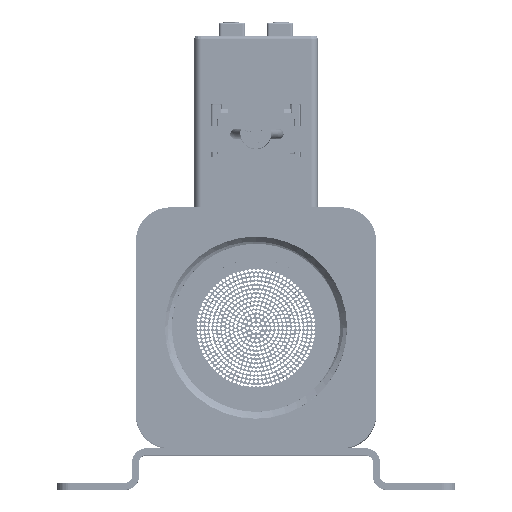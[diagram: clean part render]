
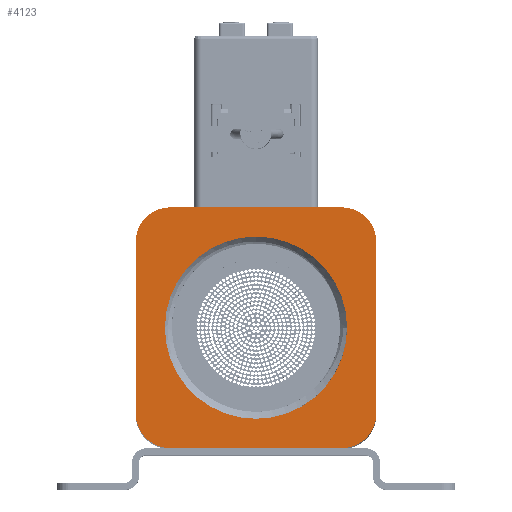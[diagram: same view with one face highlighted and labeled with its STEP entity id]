
A CAD part, top view. The second image highlights one B-rep face of the part: STEP entity #4123.
In plain terms, the highlighted planar face has unit normal (0, 0, 1).
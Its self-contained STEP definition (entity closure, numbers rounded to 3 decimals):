
#350=LINE('',#58476,#1565);
#354=LINE('',#58769,#1569);
#359=LINE('',#58784,#1574);
#366=LINE('',#58895,#1581);
#1565=VECTOR('',#46114,1.);
#1569=VECTOR('',#46134,1.);
#1574=VECTOR('',#46147,1.);
#1581=VECTOR('',#46182,1.);
#3619=PLANE('',#40617);
#4123=ADVANCED_FACE('',(#7644,#7645),#3619,.T.);
#7644=FACE_BOUND('',#13493,.T.);
#7645=FACE_BOUND('',#13494,.T.);
#13493=EDGE_LOOP('',(#20376));
#13494=EDGE_LOOP('',(#20377,#20378,#20379,#20380,#20381,#20382,#20383,#20384));
#20376=ORIENTED_EDGE('',*,*,#33093,.T.);
#20377=ORIENTED_EDGE('',*,*,#33010,.T.);
#20378=ORIENTED_EDGE('',*,*,#33013,.T.);
#20379=ORIENTED_EDGE('',*,*,#33048,.T.);
#20380=ORIENTED_EDGE('',*,*,#33020,.T.);
#20381=ORIENTED_EDGE('',*,*,#32997,.T.);
#20382=ORIENTED_EDGE('',*,*,#33026,.T.);
#20383=ORIENTED_EDGE('',*,*,#33017,.T.);
#20384=ORIENTED_EDGE('',*,*,#33032,.T.);
#28942=VERTEX_POINT('',#58471);
#28944=VERTEX_POINT('',#58475);
#28955=VERTEX_POINT('',#58764);
#28957=VERTEX_POINT('',#58768);
#28959=VERTEX_POINT('',#58774);
#28961=VERTEX_POINT('',#58779);
#28963=VERTEX_POINT('',#58783);
#28965=VERTEX_POINT('',#58788);
#29014=VERTEX_POINT('',#59128);
#32997=EDGE_CURVE('',#28942,#28944,#350,.T.);
#33010=EDGE_CURVE('',#28955,#28957,#354,.T.);
#33013=EDGE_CURVE('',#28957,#28959,#37335,.T.);
#33017=EDGE_CURVE('',#28961,#28963,#359,.T.);
#33020=EDGE_CURVE('',#28965,#28942,#37337,.T.);
#33026=EDGE_CURVE('',#28944,#28961,#37341,.T.);
#33032=EDGE_CURVE('',#28963,#28955,#37345,.T.);
#33048=EDGE_CURVE('',#28959,#28965,#366,.T.);
#33093=EDGE_CURVE('',#29014,#29014,#37350,.T.);
#37335=CIRCLE('',#40585,5.);
#37337=CIRCLE('',#40589,5.);
#37341=CIRCLE('',#40594,5.);
#37345=CIRCLE('',#40599,5.);
#37350=CIRCLE('',#40616,13.25);
#40585=AXIS2_PLACEMENT_3D('',#58775,#46140,#46141);
#40589=AXIS2_PLACEMENT_3D('',#58790,#46153,#46154);
#40594=AXIS2_PLACEMENT_3D('',#58801,#46165,#46166);
#40599=AXIS2_PLACEMENT_3D('',#58812,#46177,#46178);
#40616=AXIS2_PLACEMENT_3D('',#59127,#46241,#46242);
#40617=AXIS2_PLACEMENT_3D('',#59129,#46243,#46244);
#46114=DIRECTION('',(0.,1.,0.));
#46134=DIRECTION('',(0.,-1.,0.));
#46140=DIRECTION('',(0.,0.,1.));
#46141=DIRECTION('',(1.,0.,0.));
#46147=DIRECTION('',(-1.,0.,0.));
#46153=DIRECTION('',(0.,0.,1.));
#46154=DIRECTION('',(1.,0.,0.));
#46165=DIRECTION('',(0.,0.,1.));
#46166=DIRECTION('',(1.,0.,0.));
#46177=DIRECTION('',(0.,0.,1.));
#46178=DIRECTION('',(1.,0.,0.));
#46182=DIRECTION('',(1.,0.,0.));
#46241=DIRECTION('',(0.,0.,-1.));
#46242=DIRECTION('',(1.,0.,0.));
#46243=DIRECTION('',(0.,0.,1.));
#46244=DIRECTION('',(1.,0.,0.));
#58471=CARTESIAN_POINT('',(44.,-18.,7.5));
#58475=CARTESIAN_POINT('',(44.,7.,7.5));
#58476=CARTESIAN_POINT('',(44.,-15.5,7.5));
#58764=CARTESIAN_POINT('',(9.,7.,7.5));
#58768=CARTESIAN_POINT('',(9.,-18.,7.5));
#58769=CARTESIAN_POINT('',(9.,-15.5,7.5));
#58774=CARTESIAN_POINT('',(14.,-23.,7.5));
#58775=CARTESIAN_POINT('',(14.,-18.,7.5));
#58779=CARTESIAN_POINT('',(39.,12.,7.5));
#58783=CARTESIAN_POINT('',(14.,12.,7.5));
#58784=CARTESIAN_POINT('',(36.5,12.,7.5));
#58788=CARTESIAN_POINT('',(39.,-23.,7.5));
#58790=CARTESIAN_POINT('',(39.,-18.,7.5));
#58801=CARTESIAN_POINT('',(39.,7.,7.5));
#58812=CARTESIAN_POINT('',(14.,7.,7.5));
#58895=CARTESIAN_POINT('',(16.5,-23.,7.5));
#59127=CARTESIAN_POINT('',(26.5,-5.5,7.5));
#59128=CARTESIAN_POINT('',(39.75,-5.5,7.5));
#59129=CARTESIAN_POINT('',(16.5,-15.5,7.5));
